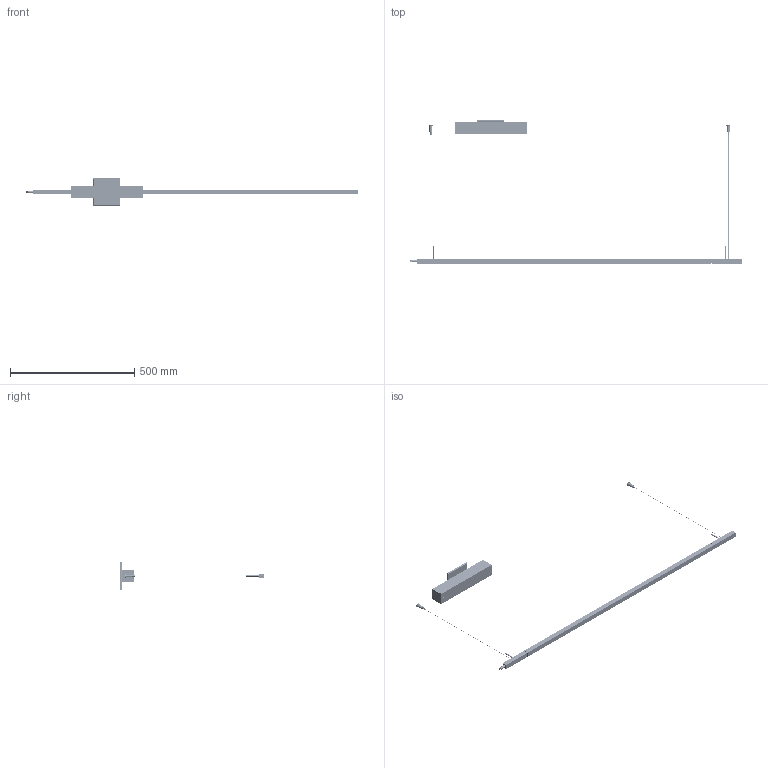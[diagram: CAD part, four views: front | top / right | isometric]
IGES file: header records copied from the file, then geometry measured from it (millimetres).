
Start section: SolidWorks IGES file using analytic representation for surfaces
Global section: file name: C:\Users\dtentori\Desktop\3d sito usa\LINESCAPES PENDANT L130\LINESCAPES PEND H L130.IGS; native system: SolidWorks 2016; preprocessor: SolidWorks 2016; author: dtentori; date: 170728.154731; units: millimetre
Bounding box: 1335.1 x 576 x 109 mm (x, y, z)
Surface area: 473291.5 mm2 (no closed solid volume)
Topology: 0 solids, 0 shells, 7893 faces, 67769 edges, 67623 vertices
Faces by surface type: bspline 5910, revolution 1983
